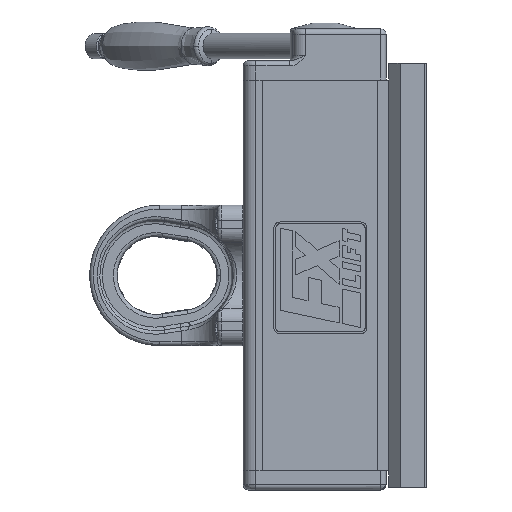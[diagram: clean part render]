
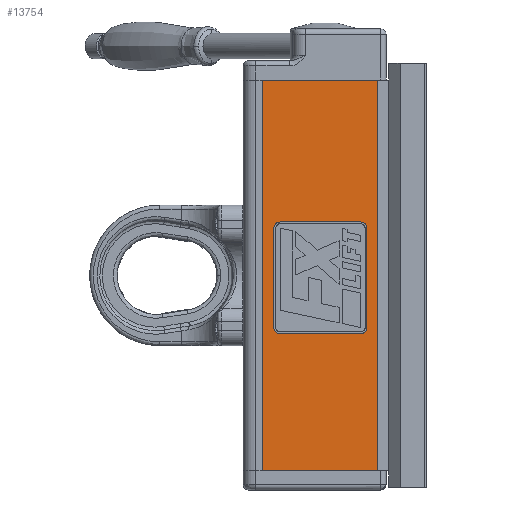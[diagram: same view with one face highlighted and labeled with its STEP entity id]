
A CAD part, left-side view. The second image highlights one B-rep face of the part: STEP entity #13754.
In plain terms, the highlighted planar face has unit normal (-1, 0, 0).
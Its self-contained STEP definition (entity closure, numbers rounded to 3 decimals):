
#76 = PLANE ( 'NONE',  #5185 ) ;
#209 = VECTOR ( 'NONE', #723, 1000. ) ;
#274 = CARTESIAN_POINT ( 'NONE',  ( -74.5, 39.814, 37.001 ) ) ;
#723 = DIRECTION ( 'NONE',  ( 0., 0., -1. ) ) ;
#792 = B_SPLINE_CURVE_WITH_KNOTS ( 'NONE', 3,
 ( #18340, #1861, #7468, #26998 ),
 .UNSPECIFIED., .F., .F.,
 ( 4, 4 ),
 ( 0.333, 0.444 ),
 .UNSPECIFIED. ) ;
#998 = CARTESIAN_POINT ( 'NONE',  ( -74.5, -33.052, 0. ) ) ;
#1207 = DIRECTION ( 'NONE',  ( 0., -1., 0. ) ) ;
#1861 = CARTESIAN_POINT ( 'NONE',  ( -74.5, -30.866, 41.859 ) ) ;
#3087 = VECTOR ( 'NONE', #24727, 1000. ) ;
#3488 = CARTESIAN_POINT ( 'NONE',  ( -74.5, -42.5, 153. ) ) ;
#3834 = CARTESIAN_POINT ( 'NONE',  ( -74.5, 0., -45.581 ) ) ;
#4078 = FACE_BOUND ( 'NONE', #20407, .T. ) ;
#4831 = VERTEX_POINT ( 'NONE', #15177 ) ;
#5185 = AXIS2_PLACEMENT_3D ( 'NONE', #25178, #30789, #14092 ) ;
#5874 = VECTOR ( 'NONE', #17804, 1000. ) ;
#6080 = CARTESIAN_POINT ( 'NONE',  ( -74.5, -33.052, 37.001 ) ) ;
#6246 = VECTOR ( 'NONE', #28438, 1000. ) ;
#6393 = EDGE_CURVE ( 'NONE', #26651, #28413, #15505, .T. ) ;
#6601 = CARTESIAN_POINT ( 'NONE',  ( -74.5, -42.5, 153. ) ) ;
#7468 = CARTESIAN_POINT ( 'NONE',  ( -74.5, -33.052, 39.673 ) ) ;
#7952 = CARTESIAN_POINT ( 'NONE',  ( -74.5, -28.194, -45.581 ) ) ;
#8634 = CARTESIAN_POINT ( 'NONE',  ( -74.5, 37.628, 41.859 ) ) ;
#8701 = CARTESIAN_POINT ( 'NONE',  ( -74.5, 49., 153. ) ) ;
#9248 = VERTEX_POINT ( 'NONE', #6601 ) ;
#9418 = VERTEX_POINT ( 'NONE', #12549 ) ;
#9490 = DIRECTION ( 'NONE',  ( 0., -1., 0. ) ) ;
#9600 = LINE ( 'NONE', #10673, #3087 ) ;
#9953 = ORIENTED_EDGE ( 'NONE', *, *, #14665, .T. ) ;
#10673 = CARTESIAN_POINT ( 'NONE',  ( -74.5, 0., 41.859 ) ) ;
#12061 = ORIENTED_EDGE ( 'NONE', *, *, #26613, .T. ) ;
#12135 = ORIENTED_EDGE ( 'NONE', *, *, #30640, .T. ) ;
#12298 = CARTESIAN_POINT ( 'NONE',  ( -74.5, 0., -153. ) ) ;
#12549 = CARTESIAN_POINT ( 'NONE',  ( -74.5, -28.194, 41.859 ) ) ;
#12631 = VECTOR ( 'NONE', #1207, 1000. ) ;
#12791 = CARTESIAN_POINT ( 'NONE',  ( -74.5, 39.814, -43.395 ) ) ;
#13223 = VERTEX_POINT ( 'NONE', #27408 ) ;
#13754 = ADVANCED_FACE ( 'NONE', ( #18078, #4078 ), #76, .F. ) ;
#14066 = VECTOR ( 'NONE', #9490, 1000. ) ;
#14092 = DIRECTION ( 'NONE',  ( 0., 1., 0. ) ) ;
#14197 = LINE ( 'NONE', #998, #5874 ) ;
#14568 = LINE ( 'NONE', #3834, #6246 ) ;
#14665 = EDGE_CURVE ( 'NONE', #28413, #15614, #14568, .T. ) ;
#14710 = ORIENTED_EDGE ( 'NONE', *, *, #25820, .T. ) ;
#15177 = CARTESIAN_POINT ( 'NONE',  ( -74.5, 34.957, 41.859 ) ) ;
#15370 = CARTESIAN_POINT ( 'NONE',  ( -74.5, 49., -153. ) ) ;
#15505 = B_SPLINE_CURVE_WITH_KNOTS ( 'NONE', 3,
 ( #24681, #27354, #21878, #7952 ),
 .UNSPECIFIED., .F., .F.,
 ( 4, 4 ),
 ( 0.556, 0.667 ),
 .UNSPECIFIED. ) ;
#15614 = VERTEX_POINT ( 'NONE', #30176 ) ;
#15973 = VERTEX_POINT ( 'NONE', #31426 ) ;
#16455 = ORIENTED_EDGE ( 'NONE', *, *, #17670, .F. ) ;
#17086 = CARTESIAN_POINT ( 'NONE',  ( -74.5, -33.052, -40.723 ) ) ;
#17670 = EDGE_CURVE ( 'NONE', #35775, #9248, #34855, .T. ) ;
#17804 = DIRECTION ( 'NONE',  ( 0., 0., -1. ) ) ;
#18078 = FACE_OUTER_BOUND ( 'NONE', #32565, .T. ) ;
#18340 = CARTESIAN_POINT ( 'NONE',  ( -74.5, -28.194, 41.859 ) ) ;
#18945 = VECTOR ( 'NONE', #31251, 1000. ) ;
#18990 = DIRECTION ( 'NONE',  ( 0., 0., -1. ) ) ;
#19704 = ORIENTED_EDGE ( 'NONE', *, *, #34578, .T. ) ;
#20407 = EDGE_LOOP ( 'NONE', ( #28329, #24413, #12061, #12135, #19704, #24326, #25033, #9953 ) ) ;
#20609 = LINE ( 'NONE', #12298, #14066 ) ;
#21878 = CARTESIAN_POINT ( 'NONE',  ( -74.5, -30.866, -45.581 ) ) ;
#22577 = CARTESIAN_POINT ( 'NONE',  ( -74.5, 39.814, 39.673 ) ) ;
#22863 = CARTESIAN_POINT ( 'NONE',  ( -74.5, 39.814, 0. ) ) ;
#24005 = CARTESIAN_POINT ( 'NONE',  ( -74.5, -42.5, -153. ) ) ;
#24326 = ORIENTED_EDGE ( 'NONE', *, *, #34828, .T. ) ;
#24413 = ORIENTED_EDGE ( 'NONE', *, *, #26339, .T. ) ;
#24681 = CARTESIAN_POINT ( 'NONE',  ( -74.5, -33.052, -40.723 ) ) ;
#24727 = DIRECTION ( 'NONE',  ( 0., -1., 0. ) ) ;
#25033 = ORIENTED_EDGE ( 'NONE', *, *, #6393, .T. ) ;
#25178 = CARTESIAN_POINT ( 'NONE',  ( -74.5, 0., 153. ) ) ;
#25500 = LINE ( 'NONE', #22863, #18945 ) ;
#25820 = EDGE_CURVE ( 'NONE', #35775, #29707, #28584, .T. ) ;
#26339 = EDGE_CURVE ( 'NONE', #15973, #13223, #25500, .T. ) ;
#26613 = EDGE_CURVE ( 'NONE', #13223, #4831, #31137, .T. ) ;
#26651 = VERTEX_POINT ( 'NONE', #17086 ) ;
#26709 = VERTEX_POINT ( 'NONE', #6080 ) ;
#26728 = CARTESIAN_POINT ( 'NONE',  ( -74.5, 34.957, -45.581 ) ) ;
#26935 = VERTEX_POINT ( 'NONE', #24005 ) ;
#26998 = CARTESIAN_POINT ( 'NONE',  ( -74.5, -33.052, 37.001 ) ) ;
#27354 = CARTESIAN_POINT ( 'NONE',  ( -74.5, -33.052, -43.395 ) ) ;
#27408 = CARTESIAN_POINT ( 'NONE',  ( -74.5, 39.814, 37.001 ) ) ;
#27713 = VECTOR ( 'NONE', #18990, 1000. ) ;
#27984 = EDGE_CURVE ( 'NONE', #15614, #15973, #29605, .T. ) ;
#28205 = CARTESIAN_POINT ( 'NONE',  ( -74.5, 34.957, 41.859 ) ) ;
#28329 = ORIENTED_EDGE ( 'NONE', *, *, #27984, .T. ) ;
#28413 = VERTEX_POINT ( 'NONE', #33879 ) ;
#28438 = DIRECTION ( 'NONE',  ( 0., 1., 0. ) ) ;
#28584 = LINE ( 'NONE', #35265, #27713 ) ;
#29026 = CARTESIAN_POINT ( 'NONE',  ( -74.5, 0., 153. ) ) ;
#29516 = CARTESIAN_POINT ( 'NONE',  ( -74.5, 37.628, -45.581 ) ) ;
#29524 = ORIENTED_EDGE ( 'NONE', *, *, #35482, .F. ) ;
#29605 = B_SPLINE_CURVE_WITH_KNOTS ( 'NONE', 3,
 ( #26728, #29516, #12791, #32295 ),
 .UNSPECIFIED., .F., .F.,
 ( 4, 4 ),
 ( 0.778, 1. ),
 .UNSPECIFIED. ) ;
#29655 = EDGE_CURVE ( 'NONE', #29707, #26935, #20609, .T. ) ;
#29707 = VERTEX_POINT ( 'NONE', #15370 ) ;
#29870 = LINE ( 'NONE', #3488, #209 ) ;
#30176 = CARTESIAN_POINT ( 'NONE',  ( -74.5, 34.957, -45.581 ) ) ;
#30640 = EDGE_CURVE ( 'NONE', #4831, #9418, #9600, .T. ) ;
#30789 = DIRECTION ( 'NONE',  ( 1., 0., 0. ) ) ;
#31137 = B_SPLINE_CURVE_WITH_KNOTS ( 'NONE', 3,
 ( #274, #22577, #8634, #28205 ),
 .UNSPECIFIED., .F., .F.,
 ( 4, 4 ),
 ( 0.111, 0.222 ),
 .UNSPECIFIED. ) ;
#31251 = DIRECTION ( 'NONE',  ( 0., 0., 1. ) ) ;
#31426 = CARTESIAN_POINT ( 'NONE',  ( -74.5, 39.814, -40.723 ) ) ;
#32295 = CARTESIAN_POINT ( 'NONE',  ( -74.5, 39.814, -40.723 ) ) ;
#32565 = EDGE_LOOP ( 'NONE', ( #34811, #29524, #16455, #14710 ) ) ;
#33879 = CARTESIAN_POINT ( 'NONE',  ( -74.5, -28.194, -45.581 ) ) ;
#34578 = EDGE_CURVE ( 'NONE', #9418, #26709, #792, .T. ) ;
#34811 = ORIENTED_EDGE ( 'NONE', *, *, #29655, .T. ) ;
#34828 = EDGE_CURVE ( 'NONE', #26709, #26651, #14197, .T. ) ;
#34855 = LINE ( 'NONE', #29026, #12631 ) ;
#35265 = CARTESIAN_POINT ( 'NONE',  ( -74.5, 49., 153. ) ) ;
#35482 = EDGE_CURVE ( 'NONE', #9248, #26935, #29870, .T. ) ;
#35775 = VERTEX_POINT ( 'NONE', #8701 ) ;
